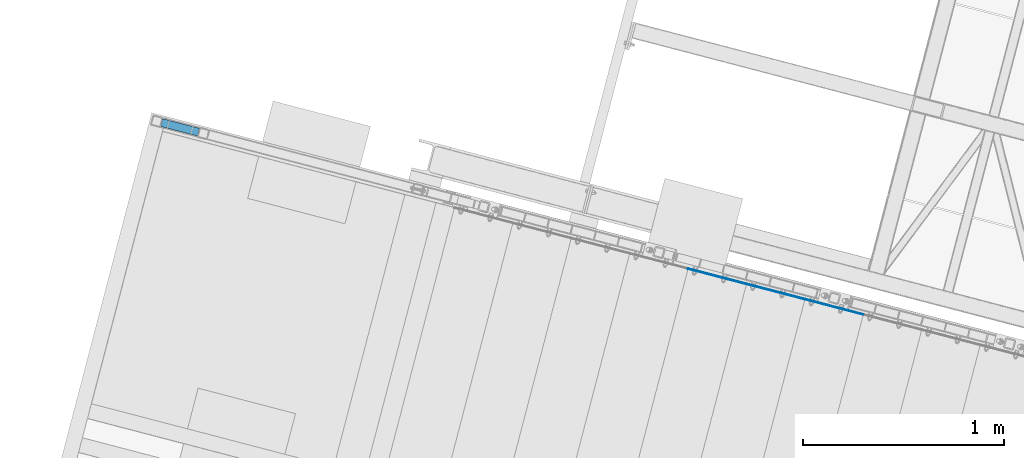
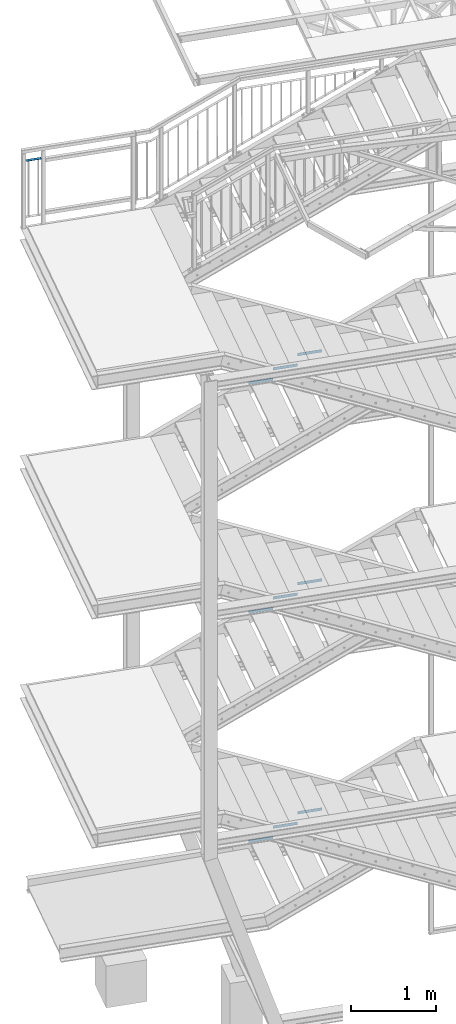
# One storey, part 78 of 169: 10 discrete accessories, 10 elements without a shape of their own.
"""IFC2X3 building model written with IfcOpenShell, lengths in millimetres."""

from ifc_helpers import new_model, si_unit, frame, origin_with_axes, origin_2d_with_axis, place, context, subcontext, project, spatial, polyline, rectangle, outline, extrude, clip, halfspace, material, type_object, element, aggregate, save


model = new_model("IFC2X3")

# Units and contexts
model_context = context("Model", 3, precision=1e-05, world=origin_with_axes())
body_context = subcontext(model_context, "Body", "Model", "MODEL_VIEW")
ifc_project = project(units=[si_unit("LENGTHUNIT", "METRE", prefix="MILLI"), si_unit("AREAUNIT", "SQUARE_METRE"), si_unit("VOLUMEUNIT", "CUBIC_METRE"), si_unit("MASSUNIT", "GRAM", prefix="KILO"), si_unit("TIMEUNIT", "SECOND"), si_unit("PLANEANGLEUNIT", "RADIAN"), si_unit("SOLIDANGLEUNIT", "STERADIAN"), si_unit("THERMODYNAMICTEMPERATUREUNIT", "DEGREE_CELSIUS"), si_unit("LUMINOUSINTENSITYUNIT", "LUMEN")], contexts=[model_context])

# Site, building, storey
site_placement = place(None, origin_with_axes())
site = spatial("IfcSite", under=ifc_project, at=site_placement, Name="Undefined", CompositionType="ELEMENT")
building_placement = place(site_placement, origin_with_axes())
building = spatial("IfcBuilding", under=site, at=building_placement, Name="Undefined", CompositionType="ELEMENT")
storey_placement = place(building_placement, origin_with_axes())
storey = spatial("IfcBuildingStorey", under=building, at=storey_placement, Name="Undefined", CompositionType="ELEMENT", Elevation=0.0)

# Assembly, discrete accessory
assembly_1_placement = place(storey_placement, origin_with_axes())
assembly_1 = element("IfcElementAssembly", 1, at=assembly_1_placement, inside=storey, Name="Steel Assembly", AssemblyPlace="NOTDEFINED", PredefinedType="RIGID_FRAME")
ifc_material_1 = material(Name="STEEL/S235")
discrete_accessory_type_1 = type_object("IfcDiscreteAccessoryType", Name="PORĘCZ")
discrete_accessory_1_placement = place(assembly_1_placement, frame((-28837.685876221, 9138.056681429, 13309.9945178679), z_axis=(3.4552000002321e-05, 0.000132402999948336, 0.999999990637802), x_axis=(-0.967563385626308, 0.252628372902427, -1.72000000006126e-07)))
discrete_accessory_1 = element("IfcDiscreteAccessory", 2, at=discrete_accessory_1_placement, type_object=discrete_accessory_type_1, material=ifc_material_1, Name="PORĘCZ", ObjectType="BL40*3", context=body_context, shape_type="Clipping", body=[
    clip(clip(extrude(outline(polyline([(189.999999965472, 19.9999999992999), (189.99999994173, -20.0000000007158), (-3.27418092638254e-11, -20.0000000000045), (3.27418092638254e-11, 20.0000000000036), (189.999999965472, 19.9999999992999)])), frame((1.81898940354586e-12, -1.77635442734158e-15, -1.50000000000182), z_axis=(0.0, 0.0, 1.0), x_axis=(1.0, 0.0, 0.0)), (0.0, 0.0, 1.0), 3.0), halfspace(frame((190.000000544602, 1000.00000000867, -1.9654180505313e-08), z_axis=(-1.0, -3.46944695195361e-18, -1.38777878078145e-17), x_axis=(0.0, 0.0, 1.0)), True)), halfspace(frame((-8.25479219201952e-07, 1000.00000001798, 2.65572452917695e-09), z_axis=(1.0, 0.0, 0.0), x_axis=(-2.54700353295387e-10, 0.0, -1.0)), True)),
])
aggregate(assembly_1, [discrete_accessory_1])

assembly_2_placement = place(storey_placement, origin_with_axes())
assembly_2 = element("IfcElementAssembly", 3, at=assembly_2_placement, inside=storey, Name="Steel Assembly", AssemblyPlace="NOTDEFINED", PredefinedType="RIGID_FRAME")
ifc_material_2 = material(Name="STEEL/S235JR")
discrete_accessory_type_2 = type_object("IfcDiscreteAccessoryType", Name="ANGLE")
discrete_accessory_2_placement = place(assembly_2_placement, frame((-25824.6957105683, 8308.01032315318, 9930.09581681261), z_axis=(-0.252562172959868, -0.967580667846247, 0.0), x_axis=(0.967580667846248, -0.252562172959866, 0.0)))
discrete_accessory_2 = element("IfcDiscreteAccessory", 4, at=discrete_accessory_2_placement, type_object=discrete_accessory_type_2, material=ifc_material_2, Name="ANGLE", ObjectType="3*40", context=body_context, shape_type="SweptSolid", body=[
    extrude(rectangle(XDim=40.0, YDim=3.0, at=origin_2d_with_axis()), frame((300.000000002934, 1.81898940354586e-12, -1.81898940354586e-12), z_axis=(-1.0, -3.46944695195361e-18, -1.38777878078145e-17), x_axis=(1.73472347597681e-18, -1.0, 0.0)), (0.0, 0.0, 1.0), 300.0),
])
aggregate(assembly_2, [discrete_accessory_2])

assembly_3_placement = place(storey_placement, origin_with_axes())
assembly_3 = element("IfcElementAssembly", 5, at=assembly_3_placement, inside=storey, Name="Steel Assembly", AssemblyPlace="NOTDEFINED", PredefinedType="RIGID_FRAME")
discrete_accessory_3_placement = place(assembly_3_placement, frame((-26114.9699143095, 8383.77897596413, 9780.09581681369), z_axis=(-0.252562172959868, -0.967580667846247, 0.0), x_axis=(0.967580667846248, -0.252562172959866, 0.0)))
discrete_accessory_3 = element("IfcDiscreteAccessory", 6, at=discrete_accessory_3_placement, type_object=discrete_accessory_type_2, material=ifc_material_2, Name="ANGLE", ObjectType="3*40", context=body_context, shape_type="SweptSolid", body=[
    extrude(rectangle(XDim=40.0, YDim=3.0, at=origin_2d_with_axis()), frame((300.000000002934, 1.81898940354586e-12, -1.81898940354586e-12), z_axis=(-1.0, -3.46944695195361e-18, -1.38777878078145e-17), x_axis=(1.73472347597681e-18, -1.0, 0.0)), (0.0, 0.0, 1.0), 300.0),
])
aggregate(assembly_3, [discrete_accessory_3])

assembly_4_placement = place(storey_placement, origin_with_axes())
assembly_4 = element("IfcElementAssembly", 7, at=assembly_4_placement, inside=storey, Name="Steel Assembly", AssemblyPlace="NOTDEFINED", PredefinedType="RIGID_FRAME")
discrete_accessory_4_placement = place(assembly_4_placement, frame((-26405.2441180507, 8459.54762877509, 9630.09581681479), z_axis=(-0.252562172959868, -0.967580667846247, 0.0), x_axis=(0.967580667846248, -0.252562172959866, 0.0)))
discrete_accessory_4 = element("IfcDiscreteAccessory", 8, at=discrete_accessory_4_placement, type_object=discrete_accessory_type_2, material=ifc_material_2, Name="ANGLE", ObjectType="3*40", context=body_context, shape_type="SweptSolid", body=[
    extrude(rectangle(XDim=40.0, YDim=3.0, at=origin_2d_with_axis()), frame((300.000000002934, 1.81898940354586e-12, -1.81898940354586e-12), z_axis=(-1.0, -3.46944695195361e-18, -1.38777878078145e-17), x_axis=(1.73472347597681e-18, -1.0, 0.0)), (0.0, 0.0, 1.0), 300.0),
])
aggregate(assembly_4, [discrete_accessory_4])

assembly_5_placement = place(storey_placement, origin_with_axes())
assembly_5 = element("IfcElementAssembly", 9, at=assembly_5_placement, inside=storey, Name="Steel Assembly", AssemblyPlace="NOTDEFINED", PredefinedType="RIGID_FRAME")
discrete_accessory_5_placement = place(assembly_5_placement, frame((-25824.8097880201, 8307.57340819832, 6630.09584768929), z_axis=(-0.252562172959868, -0.967580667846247, 0.0), x_axis=(0.967580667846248, -0.252562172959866, 0.0)))
discrete_accessory_5 = element("IfcDiscreteAccessory", 10, at=discrete_accessory_5_placement, type_object=discrete_accessory_type_2, material=ifc_material_2, Name="ANGLE", ObjectType="3*40", context=body_context, shape_type="SweptSolid", body=[
    extrude(rectangle(XDim=40.0, YDim=3.0, at=origin_2d_with_axis()), frame((300.000000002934, 1.81898940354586e-12, -1.81898940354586e-12), z_axis=(-1.0, -3.46944695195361e-18, -1.38777878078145e-17), x_axis=(1.73472347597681e-18, -1.0, 0.0)), (0.0, 0.0, 1.0), 300.0),
])
aggregate(assembly_5, [discrete_accessory_5])

assembly_6_placement = place(storey_placement, origin_with_axes())
assembly_6 = element("IfcElementAssembly", 11, at=assembly_6_placement, inside=storey, Name="Steel Assembly", AssemblyPlace="NOTDEFINED", PredefinedType="RIGID_FRAME")
discrete_accessory_6_placement = place(assembly_6_placement, frame((-26115.0839917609, 8383.34206100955, 6480.09584768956), z_axis=(-0.252562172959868, -0.967580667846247, 0.0), x_axis=(0.967580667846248, -0.252562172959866, 0.0)))
discrete_accessory_6 = element("IfcDiscreteAccessory", 12, at=discrete_accessory_6_placement, type_object=discrete_accessory_type_2, material=ifc_material_2, Name="ANGLE", ObjectType="3*40", context=body_context, shape_type="SweptSolid", body=[
    extrude(rectangle(XDim=40.0, YDim=3.0, at=origin_2d_with_axis()), frame((300.000000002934, 1.81898940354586e-12, -1.81898940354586e-12), z_axis=(-1.0, -3.46944695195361e-18, -1.38777878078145e-17), x_axis=(1.73472347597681e-18, -1.0, 0.0)), (0.0, 0.0, 1.0), 300.0),
])
aggregate(assembly_6, [discrete_accessory_6])

assembly_7_placement = place(storey_placement, origin_with_axes())
assembly_7 = element("IfcElementAssembly", 13, at=assembly_7_placement, inside=storey, Name="Steel Assembly", AssemblyPlace="NOTDEFINED", PredefinedType="RIGID_FRAME")
discrete_accessory_7_placement = place(assembly_7_placement, frame((-26405.3581955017, 8459.11071382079, 6330.09584768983), z_axis=(-0.252562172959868, -0.967580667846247, 0.0), x_axis=(0.967580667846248, -0.252562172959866, 0.0)))
discrete_accessory_7 = element("IfcDiscreteAccessory", 14, at=discrete_accessory_7_placement, type_object=discrete_accessory_type_2, material=ifc_material_2, Name="ANGLE", ObjectType="3*40", context=body_context, shape_type="SweptSolid", body=[
    extrude(rectangle(XDim=40.0, YDim=3.0, at=origin_2d_with_axis()), frame((300.000000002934, 1.81898940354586e-12, -1.81898940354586e-12), z_axis=(-1.0, -3.46944695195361e-18, -1.38777878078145e-17), x_axis=(1.73472347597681e-18, -1.0, 0.0)), (0.0, 0.0, 1.0), 300.0),
])
aggregate(assembly_7, [discrete_accessory_7])

assembly_8_placement = place(storey_placement, origin_with_axes())
assembly_8 = element("IfcElementAssembly", 15, at=assembly_8_placement, inside=storey, Name="Steel Assembly", AssemblyPlace="NOTDEFINED", PredefinedType="RIGID_FRAME")
discrete_accessory_8_placement = place(assembly_8_placement, frame((-25824.9238736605, 8307.13649517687, 3330.09587438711), z_axis=(-0.252562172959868, -0.967580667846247, 0.0), x_axis=(0.967580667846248, -0.252562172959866, 0.0)))
discrete_accessory_8 = element("IfcDiscreteAccessory", 16, at=discrete_accessory_8_placement, type_object=discrete_accessory_type_2, material=ifc_material_2, Name="ANGLE", ObjectType="3*40", context=body_context, shape_type="SweptSolid", body=[
    extrude(rectangle(XDim=40.0, YDim=3.0, at=origin_2d_with_axis()), frame((300.000000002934, 1.81898940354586e-12, -1.81898940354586e-12), z_axis=(-1.0, -3.46944695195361e-18, -1.38777878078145e-17), x_axis=(1.73472347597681e-18, -1.0, 0.0)), (0.0, 0.0, 1.0), 300.0),
])
aggregate(assembly_8, [discrete_accessory_8])

assembly_9_placement = place(storey_placement, origin_with_axes())
assembly_9 = element("IfcElementAssembly", 17, at=assembly_9_placement, inside=storey, Name="Steel Assembly", AssemblyPlace="NOTDEFINED", PredefinedType="RIGID_FRAME")
discrete_accessory_9_placement = place(assembly_9_placement, frame((-26115.1980774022, 8382.90514798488, 3180.09587438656), z_axis=(-0.252562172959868, -0.967580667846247, 0.0), x_axis=(0.967580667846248, -0.252562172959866, 0.0)))
discrete_accessory_9 = element("IfcDiscreteAccessory", 18, at=discrete_accessory_9_placement, type_object=discrete_accessory_type_2, material=ifc_material_2, Name="ANGLE", ObjectType="3*40", context=body_context, shape_type="SweptSolid", body=[
    extrude(rectangle(XDim=40.0, YDim=3.0, at=origin_2d_with_axis()), frame((300.000000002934, 1.81898940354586e-12, -1.81898940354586e-12), z_axis=(-1.0, -3.46944695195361e-18, -1.38777878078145e-17), x_axis=(1.73472347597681e-18, -1.0, 0.0)), (0.0, 0.0, 1.0), 300.0),
])
aggregate(assembly_9, [discrete_accessory_9])

assembly_10_placement = place(storey_placement, origin_with_axes())
assembly_10 = element("IfcElementAssembly", 19, at=assembly_10_placement, inside=storey, Name="Steel Assembly", AssemblyPlace="NOTDEFINED", PredefinedType="RIGID_FRAME")
discrete_accessory_10_placement = place(assembly_10_placement, frame((-26405.4722811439, 8458.67380079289, 3030.09587438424), z_axis=(-0.252562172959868, -0.967580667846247, 0.0), x_axis=(0.967580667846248, -0.252562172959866, 0.0)))
discrete_accessory_10 = element("IfcDiscreteAccessory", 20, at=discrete_accessory_10_placement, type_object=discrete_accessory_type_2, material=ifc_material_2, Name="ANGLE", ObjectType="3*40", context=body_context, shape_type="SweptSolid", body=[
    extrude(rectangle(XDim=40.0, YDim=3.0, at=origin_2d_with_axis()), frame((300.000000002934, 1.81898940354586e-12, -1.81898940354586e-12), z_axis=(-1.0, -3.46944695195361e-18, -1.38777878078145e-17), x_axis=(1.73472347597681e-18, -1.0, 0.0)), (0.0, 0.0, 1.0), 300.0),
])
aggregate(assembly_10, [discrete_accessory_10])

save(model, "model.ifc")
